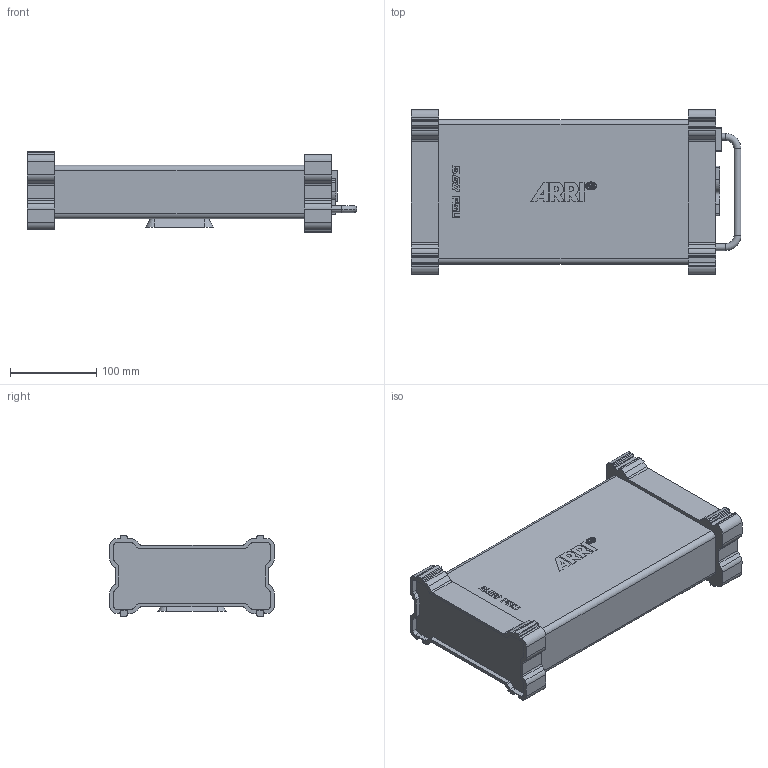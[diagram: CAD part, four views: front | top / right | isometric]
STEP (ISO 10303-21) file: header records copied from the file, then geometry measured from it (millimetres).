
FILE_DESCRIPTION (( 'STEP AP214' ), '1' );
FILE_NAME ('S60 PSU.stp', '2015-12-22T11:43:28', ( '' ), ( '' ), 'SwSTEP 2.0', 'SolidWorks 2013', '' );
FILE_SCHEMA (( 'AUTOMOTIVE_DESIGN' ));
Length unit declared in the file: millimetre
Products named in the file (1): S60 PSU
Bounding box: 383 x 191.12 x 94 mm (x, y, z)
Volume: 3875955.9 mm3; surface area: 223330 mm2
Topology: 1 solids, 1 shells, 601 faces, 1683 edges, 1122 vertices
Faces by surface type: plane 285, cylinder 283, bspline 25, torus 4, cone 4
Entity records: 23658 total; most frequent: CARTESIAN_POINT 4440, ORIENTED_EDGE 3366, DIRECTION 3306, EDGE_CURVE 1683, AXIS2_PLACEMENT_3D 1158, VERTEX_POINT 1122, LINE 990, VECTOR 990
